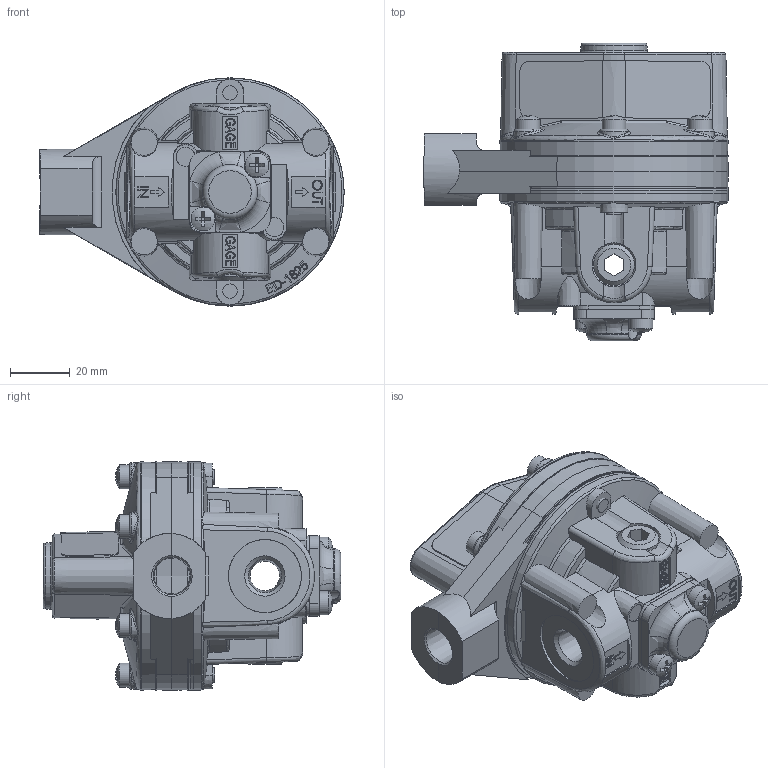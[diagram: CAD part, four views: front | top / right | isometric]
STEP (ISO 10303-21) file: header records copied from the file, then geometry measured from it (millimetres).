
FILE_DESCRIPTION(/* description */ ('STEP AP203','CAx-IF Rec.Pracs.---Representation and Presentation of Product Manufacturing Information (PMI)---4.0---2014-10-13'),/* implementation_level */ '2;1');
FILE_NAME(/* name */ 'R208-02X12.step',/* time_stamp */ '2025-04-11T07:05:36+02:00',/* author */ (''),/* organization */ (''),/* preprocessor_version */ 'ST-DEVELOPER v20',/* originating_system */ 'Autodesk Translation Framework v13.20.0.188',/* authorisation */ '');
FILE_SCHEMA (('AP242_MANAGED_MODEL_BASED_3D_ENGINEERING_MIM_LF { 1 0 10303 442 1 1 4 }'));
Length unit declared in the file: inch
Products named in the file (1): 20812E STEP FILE
Bounding box: 101.64 x 99.26 x 76.27 mm (x, y, z)
Surface area: 50207.4 mm2 (no closed solid volume)
Topology: 0 solids, 20 shells, 677 faces, 2061 edges, 1367 vertices
Faces by surface type: plane 354, bspline 131, cone 76, cylinder 58, torus 50, sphere 8
Full cylindrical faces by diameter (mm): 4.826 x2, 6.35 x2, 7.95 x8, 24.384 x2, 76.2 x2
Entity records: 35325 total; most frequent: CARTESIAN_POINT 17899, ORIENTED_EDGE 3627, DIRECTION 3273, EDGE_CURVE 2061, VERTEX_POINT 1367, AXIS2_PLACEMENT_3D 1174, LINE 925, VECTOR 925
